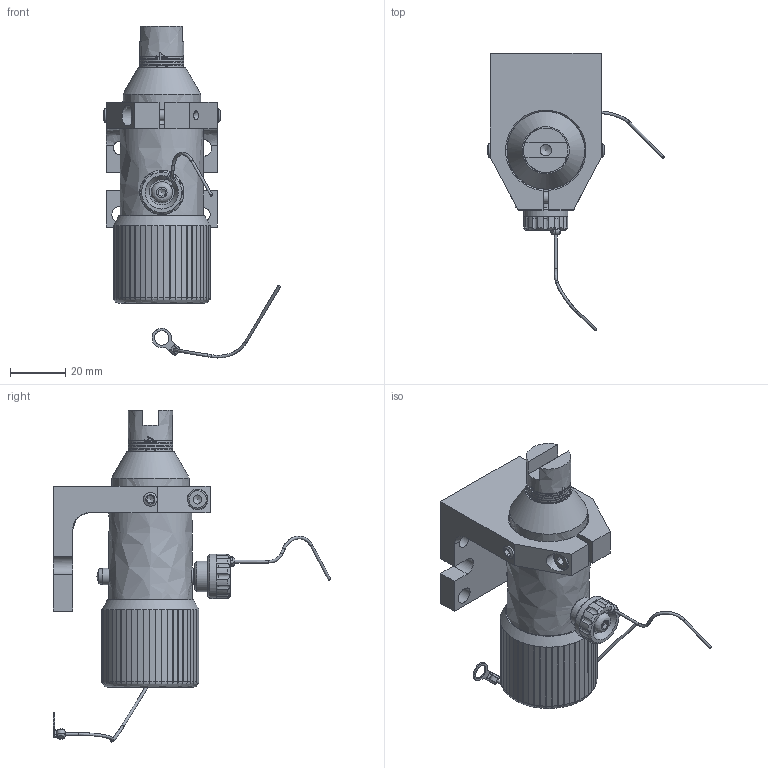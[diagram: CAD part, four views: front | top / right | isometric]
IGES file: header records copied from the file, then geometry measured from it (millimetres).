
Global section: file name: 200.00; native system: Autodesk Inventor 2014; preprocessor: unknown; author: APto; date: 20150330.160358; units: millimetre
Bounding box: 63.8 x 99.98 x 119.72 mm (x, y, z)
Volume: 86690.1 mm3; surface area: 39954.1 mm2
Topology: 28 solids, 28 shells, 798 faces, 2297 edges, 1553 vertices
Faces by surface type: bspline 798
